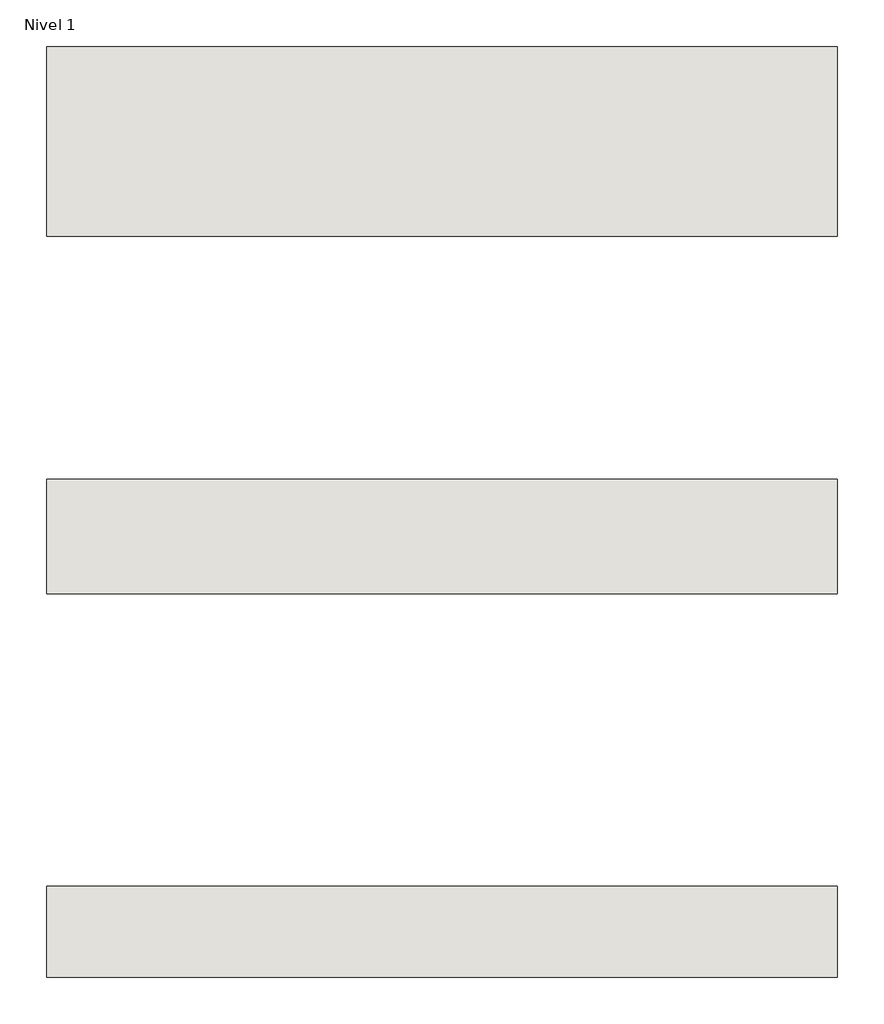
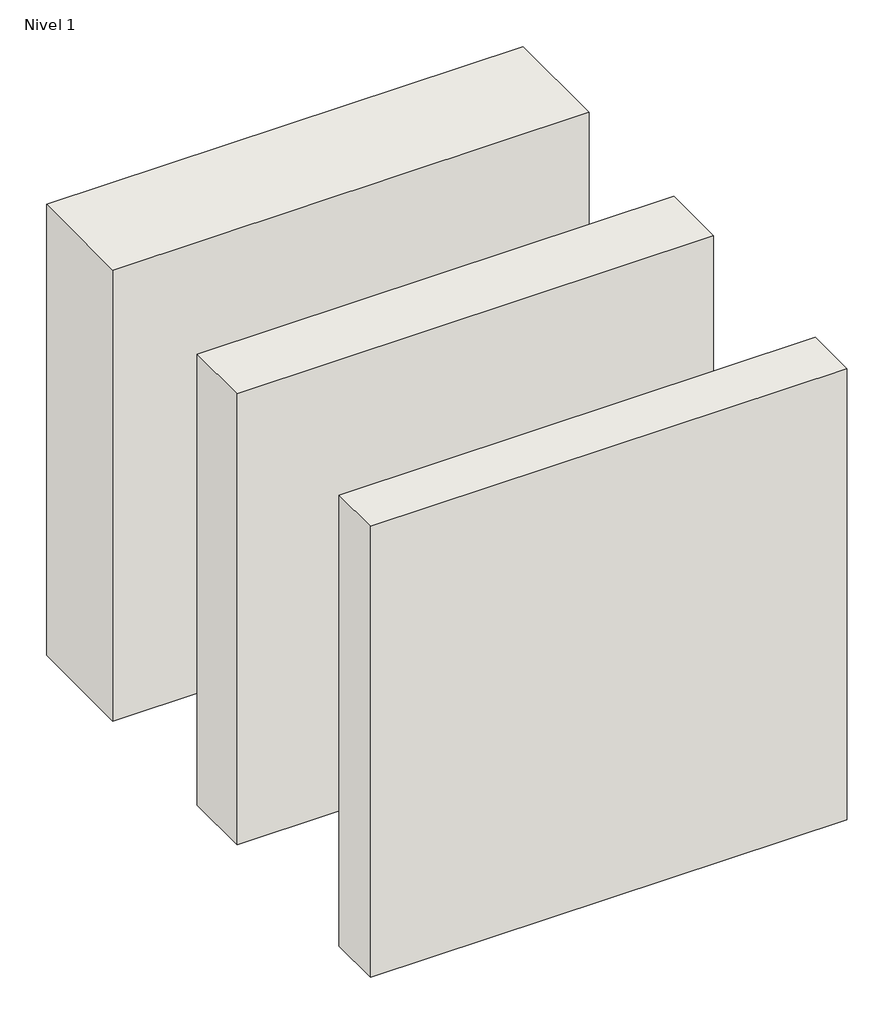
# One storey: 3 walls.
"""IFC4 building model written with IfcOpenShell, lengths in millimetres."""

from ifc_helpers import new_model, si_unit, origin, origin_with_axes, place, context, project, spatial, polyline, outline, extrude, element, save

model = new_model("IFC4")

# Units and contexts
model_context = context("Model", 3, world=origin())
ifc_project = project(units=[si_unit("LENGTHUNIT", "METRE", prefix="MILLI")], contexts=[model_context])

# Site, building, storey
site = spatial("IfcSite", under=ifc_project)
building = spatial("IfcBuilding", under=site)
storey = spatial("IfcBuildingStorey", under=building, Name="Nivel 1", Elevation=0.0)

# Walls
placement = place(None, origin())
element("IfcWall", 1, ObjectType="Satebrick Acústico 14", at=placement, inside=storey, context=model_context, shape_type="SweptSolid", body=[
    extrude(outline(polyline([(1329.5064612, -1493.967047), (329.5064612, -1493.967047), (329.5064612, -1348.967047), (1329.5064612, -1348.967047), (1329.5064612, -1493.967047)])), origin_with_axes(), (0.0, 0.0, 1.0), 1000.0),
])
element("IfcWall", 2, ObjectType="Satebrick Acústico 11,5", at=placement, inside=storey, context=model_context, shape_type="SweptSolid", body=[
    extrude(outline(polyline([(1329.5064612, -1978.967047), (329.5064612, -1978.967047), (329.5064612, -1863.967047), (1329.5064612, -1863.967047), (1329.5064612, -1978.967047)])), origin_with_axes(), (0.0, 0.0, 1.0), 1000.0),
])
element("IfcWall", 3, ObjectType="Satebrick Térmico 24", at=placement, inside=storey, context=model_context, shape_type="SweptSolid", body=[
    extrude(outline(polyline([(1329.5064612, -1041.467047), (329.5064612, -1041.467047), (329.5064612, -801.467047), (1329.5064612, -801.467047), (1329.5064612, -1041.467047)])), origin_with_axes(), (0.0, 0.0, 1.0), 1000.0),
])

save(model, "model.ifc")
